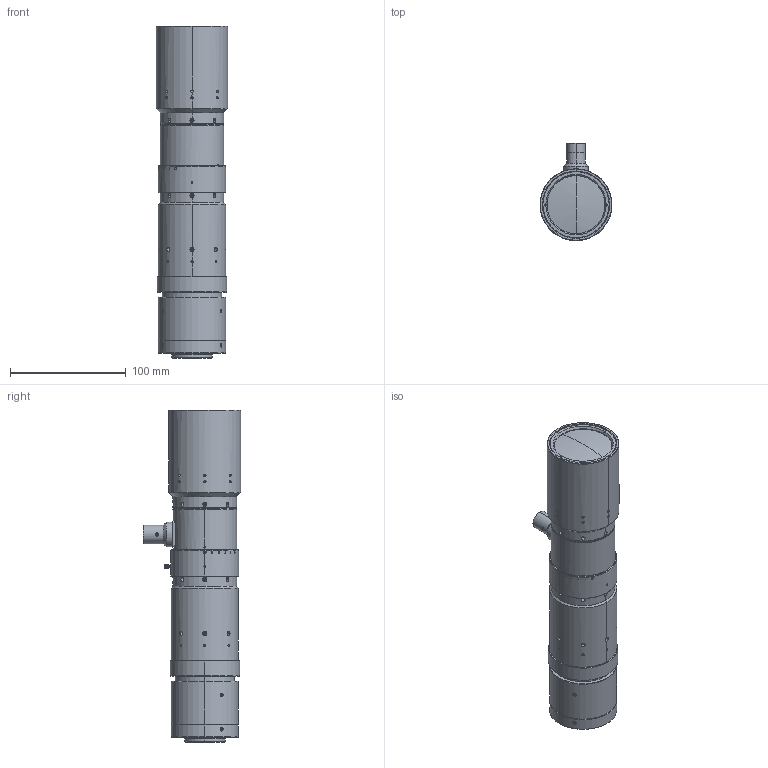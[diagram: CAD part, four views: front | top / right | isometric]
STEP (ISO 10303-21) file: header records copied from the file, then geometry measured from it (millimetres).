
FILE_DESCRIPTION (( 'STEP AP214' ), '1' );
FILE_NAME ('MML0685-ZR150DVI-20TFL.STEP', '2026-06-24T06:29:06', ( '' ), ( '' ), 'SwSTEP 2.0', 'SolidWorks 2025', '' );
FILE_SCHEMA (( 'AUTOMOTIVE_DESIGN' ));
Length unit declared in the file: millimetre
Products named in the file (1): MML0685-ZR150DVI-20TFL
Bounding box: 62 x 84.18 x 286.49 mm (x, y, z)
Volume: 654251.8 mm3; surface area: 79779.3 mm2
Topology: 1 solids, 2 shells, 1051 faces, 2478 edges, 1550 vertices
Faces by surface type: cylinder 409, plane 294, cone 278, bspline 56, sphere 8, torus 6
Entity records: 41537 total; most frequent: CARTESIAN_POINT 18485, ORIENTED_EDGE 4948, DIRECTION 4428, EDGE_CURVE 2474, AXIS2_PLACEMENT_3D 1727, VERTEX_POINT 1550, EDGE_LOOP 1178, FACE_OUTER_BOUND 1051
